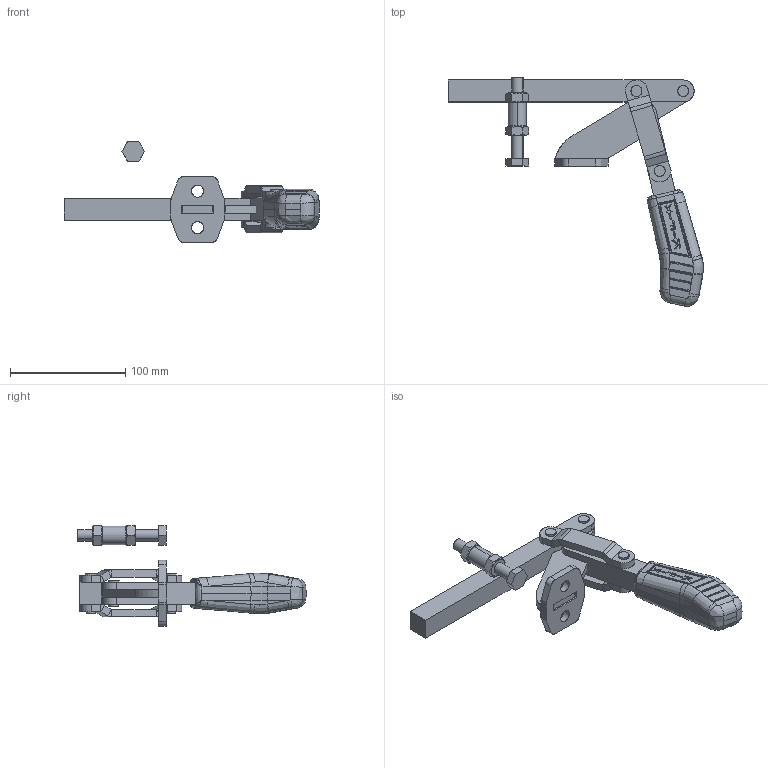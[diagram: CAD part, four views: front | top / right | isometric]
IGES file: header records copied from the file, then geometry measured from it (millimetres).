
Start section: SolidWorks IGES file using analytic representation for surfaces
Global section: file name: C:\Projetos\Grampos\KF-725\KF-725 D\KF-725 D.IGS; native system: SolidWorks 2014; preprocessor: SolidWorks 2014; author: Ricardo; date: 150716.150800; units: millimetre
Bounding box: 221.11 x 197.78 x 87.34 mm (x, y, z)
Surface area: 85534.9 mm2 (no closed solid volume)
Topology: 0 solids, 0 shells, 773 faces, 9026 edges, 8996 vertices
Faces by surface type: bspline 524, revolution 249
